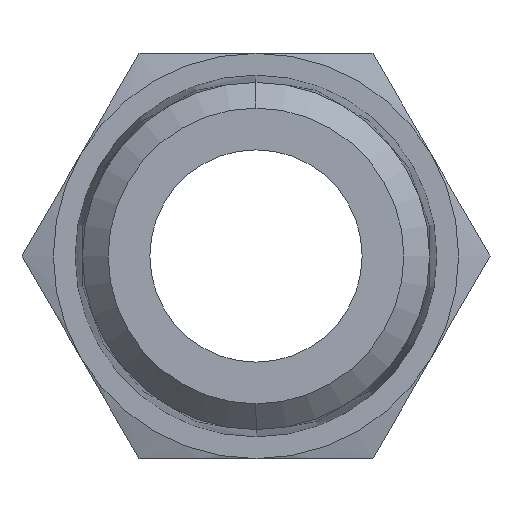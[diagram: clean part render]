
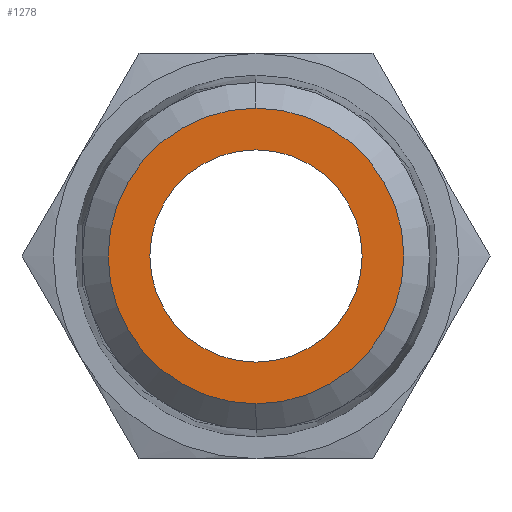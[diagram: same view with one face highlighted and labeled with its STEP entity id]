
A CAD part, left-side view. The second image highlights one B-rep face of the part: STEP entity #1278.
In plain terms, the highlighted planar face has unit normal (-1, 0, 0).
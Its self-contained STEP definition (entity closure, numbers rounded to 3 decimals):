
#66 = CARTESIAN_POINT ( 'NONE',  ( -19., 0., 7.9 ) ) ;
#67 = CARTESIAN_POINT ( 'NONE',  ( -19., 0., -7.9 ) ) ;
#68 = DIRECTION ( 'NONE',  ( 0., 0., 1. ) ) ;
#69 = DIRECTION ( 'NONE',  ( -1., 0., 0. ) ) ;
#70 = CARTESIAN_POINT ( 'NONE',  ( -19., 0., 0. ) ) ;
#71 = AXIS2_PLACEMENT_3D ( 'NONE', #70, #69, #68 ) ;
#72 = CIRCLE ( 'NONE', #71, 7.9 ) ;
#461 = DIRECTION ( 'NONE',  ( 0., 0., 1. ) ) ;
#462 = DIRECTION ( 'NONE',  ( -1., 0., 0. ) ) ;
#463 = CARTESIAN_POINT ( 'NONE',  ( -19., 0., 0. ) ) ;
#464 = AXIS2_PLACEMENT_3D ( 'NONE', #463, #462, #461 ) ;
#465 = CIRCLE ( 'NONE', #464, 7.9 ) ;
#531 = FACE_OUTER_BOUND ( 'NONE', #1279, .T. ) ;
#532 = FACE_BOUND ( 'NONE', #1283, .T. ) ;
#533 = PLANE ( 'NONE',  #546 ) ;
#534 = DIRECTION ( 'NONE',  ( 0., 0., 1. ) ) ;
#535 = DIRECTION ( 'NONE',  ( -1., 0., 0. ) ) ;
#536 = CARTESIAN_POINT ( 'NONE',  ( -19., 0., 0. ) ) ;
#537 = AXIS2_PLACEMENT_3D ( 'NONE', #536, #535, #534 ) ;
#546 = AXIS2_PLACEMENT_3D ( 'NONE', #591, #590, #601 ) ;
#590 = DIRECTION ( 'NONE',  ( -1., 0., 0. ) ) ;
#591 = CARTESIAN_POINT ( 'NONE',  ( -19., 0., 0. ) ) ;
#600 = CIRCLE ( 'NONE', #537, 11.001 ) ;
#601 = DIRECTION ( 'NONE',  ( 0., 0., 1. ) ) ;
#1026 = EDGE_CURVE ( 'NONE', #1027, #1028, #1665, .T. ) ;
#1027 = VERTEX_POINT ( 'NONE', #1604 ) ;
#1028 = VERTEX_POINT ( 'NONE', #1603 ) ;
#1078 = EDGE_CURVE ( 'NONE', #1079, #1080, #72, .T. ) ;
#1079 = VERTEX_POINT ( 'NONE', #67 ) ;
#1080 = VERTEX_POINT ( 'NONE', #66 ) ;
#1278 = ADVANCED_FACE ( 'NONE', ( #531, #532 ), #533, .T. ) ;
#1279 = EDGE_LOOP ( 'NONE', ( #1280, #1282 ) ) ;
#1280 = ORIENTED_EDGE ( 'NONE', *, *, #1281, .T. ) ;
#1281 = EDGE_CURVE ( 'NONE', #1028, #1027, #600, .T. ) ;
#1282 = ORIENTED_EDGE ( 'NONE', *, *, #1026, .T. ) ;
#1283 = EDGE_LOOP ( 'NONE', ( #1284, #1285 ) ) ;
#1284 = ORIENTED_EDGE ( 'NONE', *, *, #1078, .F. ) ;
#1285 = ORIENTED_EDGE ( 'NONE', *, *, #1338, .F. ) ;
#1338 = EDGE_CURVE ( 'NONE', #1080, #1079, #465, .T. ) ;
#1603 = CARTESIAN_POINT ( 'NONE',  ( -19., 0., -11.001 ) ) ;
#1604 = CARTESIAN_POINT ( 'NONE',  ( -19., 0., 11.001 ) ) ;
#1605 = DIRECTION ( 'NONE',  ( 0., 0., 1. ) ) ;
#1606 = DIRECTION ( 'NONE',  ( -1., 0., 0. ) ) ;
#1607 = AXIS2_PLACEMENT_3D ( 'NONE', #1666, #1606, #1605 ) ;
#1665 = CIRCLE ( 'NONE', #1607, 11.001 ) ;
#1666 = CARTESIAN_POINT ( 'NONE',  ( -19., 0., 0. ) ) ;
